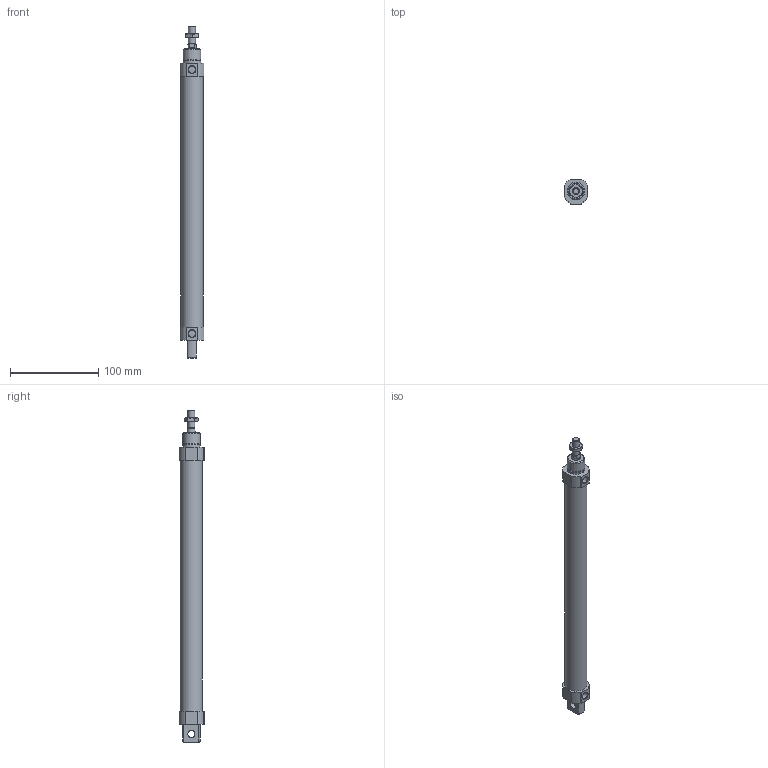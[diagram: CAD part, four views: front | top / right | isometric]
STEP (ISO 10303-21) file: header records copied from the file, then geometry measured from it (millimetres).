
FILE_DESCRIPTION((''),'2;1');
FILE_NAME('I:\3D電子目錄\氣缸\FDA\FDA\FDA\FDA20\FDA20x250.stp','2007-10-16T09:59:24',('66-2f-008'),(''),'Autodesk Inventor 11','Autodesk Inventor 11','');
FILE_SCHEMA(('AUTOMOTIVE_DESIGN { 1 0 10303 214 1 1 1 1 }'));
Length unit declared in the file: millimetre
Products named in the file (1): FDA20
Bounding box: 27 x 28.5 x 376 mm (x, y, z)
Volume: 168989.9 mm3; surface area: 30493.7 mm2
Topology: 1 solids, 1 shells, 77 faces, 178 edges, 112 vertices
Faces by surface type: plane 37, cone 20, cylinder 19, torus 1
Full cylindrical faces by diameter (mm): 8 x5, 10 x1, 20 x2, 25 x1
Entity records: 2081 total; most frequent: CARTESIAN_POINT 414, DIRECTION 348, ORIENTED_EDGE 324, EDGE_CURVE 162, AXIS2_PLACEMENT_3D 140, VERTEX_POINT 110, EDGE_LOOP 102, FACE_OUTER_BOUND 77
